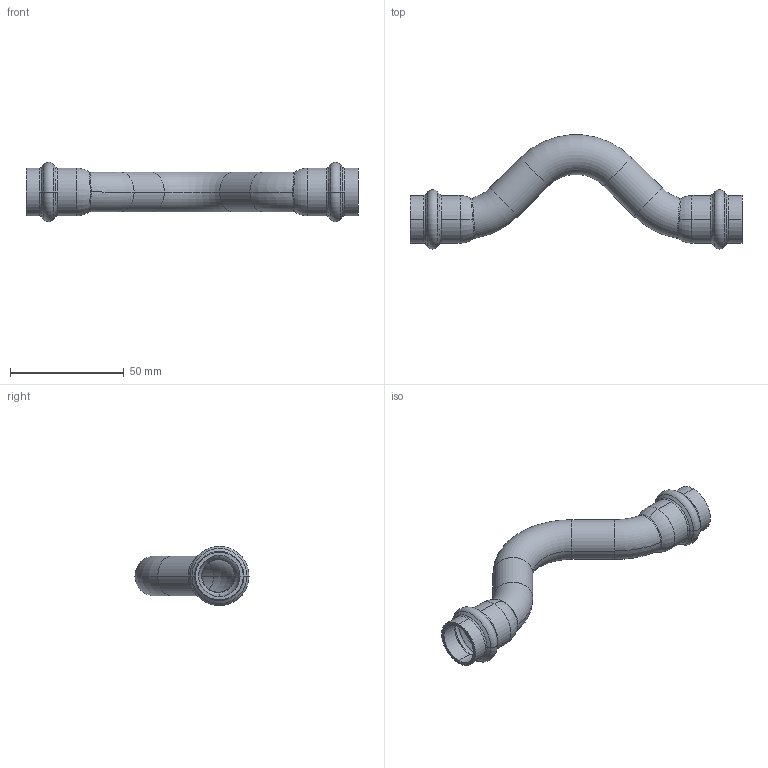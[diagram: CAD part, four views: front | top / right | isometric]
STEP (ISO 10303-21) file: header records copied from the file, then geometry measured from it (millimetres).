
FILE_DESCRIPTION (( 'STEP AP203' ), '1' );
FILE_NAME ('SP5085 Ø18.STEP', '2017-04-24T08:22:52', ( '' ), ( '' ), 'SwSTEP 2.0', 'SolidWorks 2016', '' );
FILE_SCHEMA (( 'CONFIG_CONTROL_DESIGN' ));
Length unit declared in the file: millimetre
Products named in the file (1): SP5085 ﾘ18
Bounding box: 146 x 50.17 x 26.1 mm (x, y, z)
Volume: 14132.8 mm3; surface area: 18759.4 mm2
Topology: 1 solids, 1 shells, 94 faces, 220 edges, 128 vertices
Faces by surface type: torus 44, cylinder 24, cone 16, bspline 8, plane 2
Entity records: 4488 total; most frequent: CARTESIAN_POINT 2242, DIRECTION 510, ORIENTED_EDGE 440, AXIS2_PLACEMENT_3D 235, EDGE_CURVE 220, CIRCLE 148, VERTEX_POINT 128, EDGE_LOOP 96
